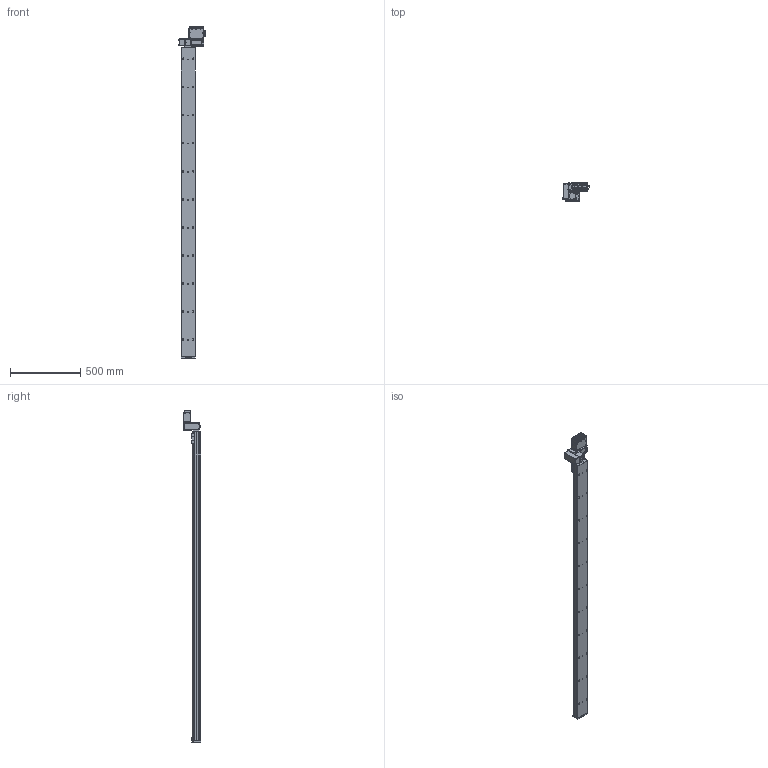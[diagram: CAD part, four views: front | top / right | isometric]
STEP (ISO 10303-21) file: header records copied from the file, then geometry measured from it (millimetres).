
FILE_DESCRIPTION (( 'STEP AP203' ), '1' );
FILE_NAME ('S10 TBN LT S2200.STEP', '2012-06-19T10:34:26', ( 'Conseil Régional Haute-Normandie' ), ( 'Conseil Régional Haute-Normandie' ), 'SwSTEP 2.0', 'SolidWorks 2010', '' );
FILE_SCHEMA (( 'CONFIG_CONTROL_DESIGN' ));
Products named in the file (30): palette tbn; plaque de bout s10_Default; Assem1_7; vis M5 L5_Default; T_X2_00F4_X0_le contre le moteur_5; Couvercle_3; Colonnette ronde_3; T_X2_00F4_X0_le fond_3; T_X2_00F4_X0_le Arri_X2_00E8_X0_re_5; T_X2_00F4_X0_le lat_X2_00E9_X0_rale_5; S10 TBN LT S2200; cache t皻e axe_Default; cache t皻e_Default; Cvis M5 L30_Default; embout; Plaque racord_Default; renvoi LH_Default; vis M5 L12_Default; Vis M5 L16-2_Default_1; BU41 Carte Alimentation P05_3; Colonnette_3; BU45 Carte d''axe A11_5; Moteur 60BLDC90A_3; Connecteur rond D10 3cts_5; Connecteur rond D12 4cts_5; Sub D 9cts 90_X2_00B_X0__3; Radiateur profil_X2_00E9_X0_ 100x25_3; Vis TF 3 torkx_1_1; axe2200_Default; axe 2200
Assembly tree (63 placements, depth 3):
  S10 TBN LT S2200
    Vis M5 L16-2_Default_1  x4
    vis M5 L12_Default  x4
    plaque de bout s10_Default
    Plaque racord_Default
    Assem1_7
      T_X2_00F4_X0_le contre le moteur_5
      T_X2_00F4_X0_le fond_3
      Vis TF 3 torkx_1_1  x21
      Colonnette ronde_3
      Colonnette_3  x2
      Couvercle_3
      Connecteur rond D10 3cts_5  x2
      Radiateur profil_X2_00E9_X0_ 100x25_3
      T_X2_00F4_X0_le Arri_X2_00E8_X0_re_5
      BU45 Carte d''axe A11_5
      Sub D 9cts 90_X2_00B_X0__3
      T_X2_00F4_X0_le lat_X2_00E9_X0_rale_5  x2
      Connecteur rond D12 4cts_5
      Moteur 60BLDC90A_3
      BU41 Carte Alimentation P05_3
    embout
    Cvis M5 L30_Default  x2
    vis M5 L5_Default  x4
    axe2200_Default
      axe 2200
    renvoi LH_Default
    cache t皻e_Default  x2
    palette tbn
    cache t皻e axe_Default
Bounding box: 189.8 x 127 x 2366.49 mm (x, y, z)
Volume: 12202609 mm3; surface area: 1335823.7 mm2
Topology: 61 solids, 61 shells, 2338 faces, 5793 edges, 3742 vertices
Faces by surface type: plane 1105, cylinder 1016, cone 174, bspline 40, torus 3
Entity records: 49033 total; most frequent: CARTESIAN_POINT 8813, DIRECTION 7934, ORIENTED_EDGE 7182, EDGE_CURVE 3591, AXIS2_PLACEMENT_3D 2962, VERTEX_POINT 2346, VECTOR 2010, LINE 2010
